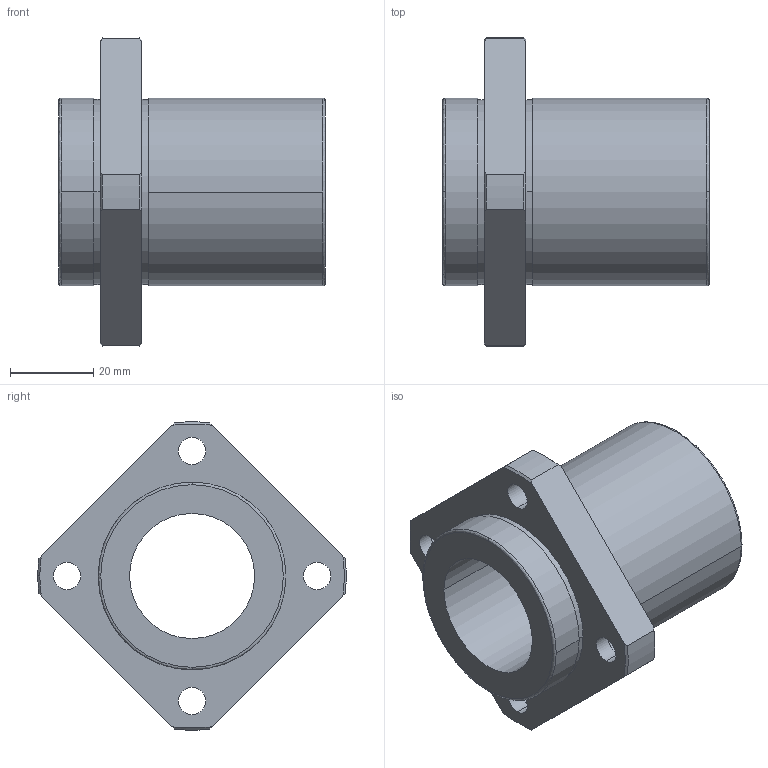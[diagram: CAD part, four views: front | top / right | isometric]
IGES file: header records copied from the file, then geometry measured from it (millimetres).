
Start section: 3D InterOp IGES (Version 21 0 1), Spatial Corp. Copyright (c) 1999-2007.
Global section: file name: NFIS-30VUU.igs; native system: Spatial Corp.; preprocessor: 3D InterOp GENERIC/IGES 3.0; author: Noname; organization: Noname; date: 20220308.112237; units: millimetre
Bounding box: 64 x 73.97 x 73.95 mm (x, y, z)
Surface area: 21975 mm2 (no closed solid volume)
Topology: 0 solids, 0 shells, 59 faces, 290 edges, 290 vertices
Faces by surface type: revolution 45, extrusion 14
